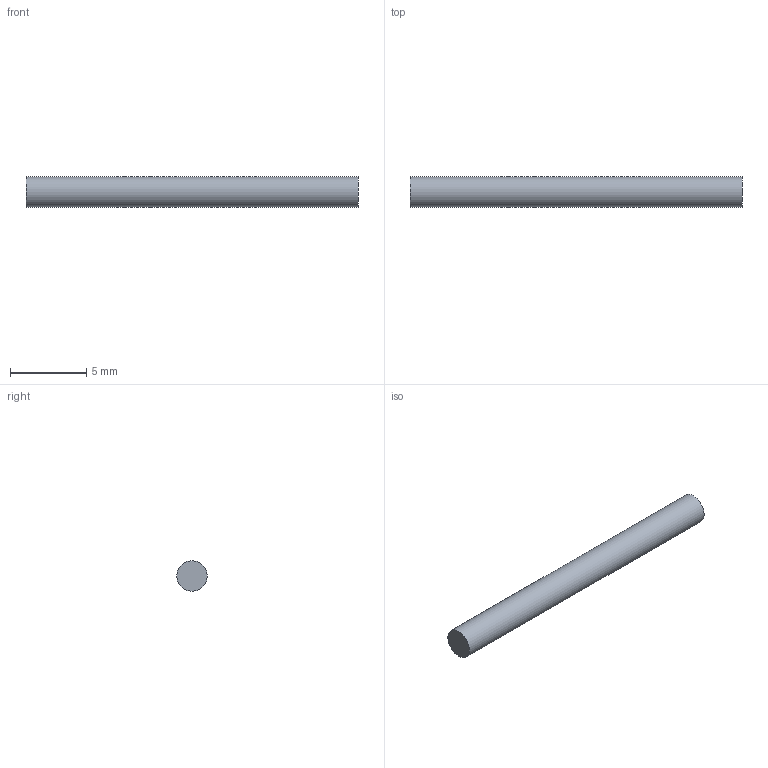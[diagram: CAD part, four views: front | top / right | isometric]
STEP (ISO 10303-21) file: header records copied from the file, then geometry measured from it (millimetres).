
FILE_DESCRIPTION(('Open CASCADE Model'),'2;1');
FILE_NAME('Open CASCADE Shape Model','2026-10-16T20:10:45',('Author'),( 'Open CASCADE'),'Open CASCADE STEP processor 7.9','Open CASCADE 7.9' ,'Unknown');
FILE_SCHEMA(('AUTOMOTIVE_DESIGN { 1 0 10303 214 1 1 1 1 }'));
Length unit declared in the file: millimetre
Products named in the file (1): Open CASCADE STEP translator 7.9 30
Bounding box: 21.8 x 2 x 2 mm (x, y, z)
Volume: 68.5 mm3; surface area: 143.3 mm2
Topology: 1 solids, 1 shells, 3 faces, 3 edges, 2 vertices
Faces by surface type: plane 2, cylinder 1
Full cylindrical faces by diameter (mm): 2 x1
Entity records: 114 total; most frequent: CARTESIAN_POINT 27, DIRECTION 17, AXIS2_PLACEMENT_3D 6, ORIENTED_EDGE 6, PCURVE 6, DEFINITIONAL_REPRESENTATION 6, LINE 5, VECTOR 5
